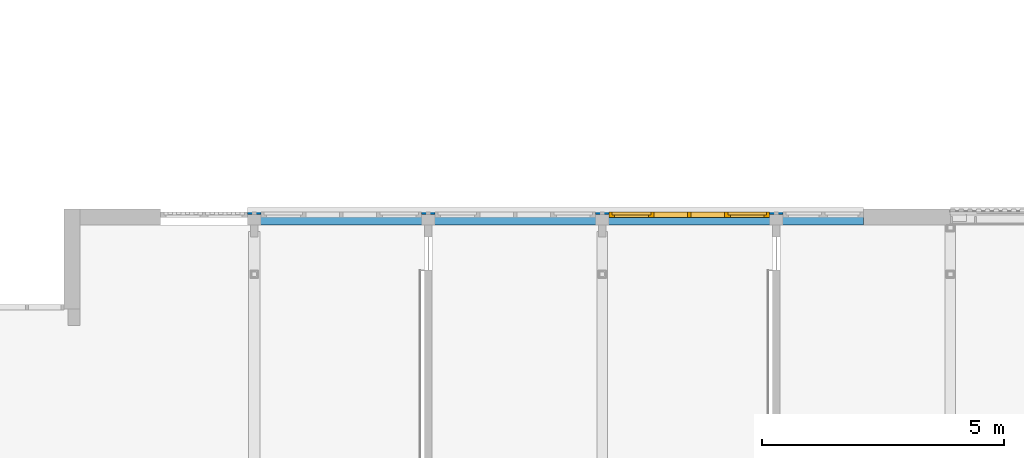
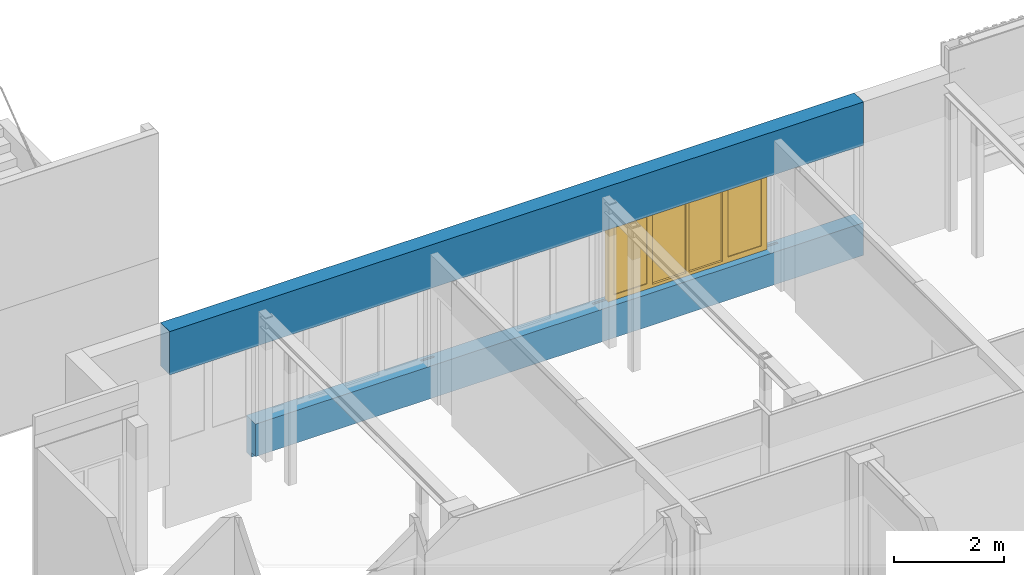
# One storey, part 29 of 99: 1 wall, 1 window, 5 openings.
"""IFC2X3 building model written with IfcOpenShell, lengths in millimetres."""

from ifc_helpers import new_model, entity, si_unit, converted_unit, derived_unit, money_unit, direction, frame, origin_with_axes, place, context, subcontext, project, spatial, open_shell, faceted_brep, surface_model, source, transform, mapped, material, type_object, type_shapes, element, fill, save


model = new_model("IFC2X3")

# Units and contexts
model_context = context("Model", 3, precision=0.01, world=origin_with_axes(), true_north=direction((0.0, 1.0)))
body_context = subcontext(model_context, "Body", "Model", "MODEL_VIEW")
ifc_project = project(units=[si_unit("LENGTHUNIT", "METRE", prefix="MILLI"), si_unit("AREAUNIT", "SQUARE_METRE"), si_unit("VOLUMEUNIT", "CUBIC_METRE"), converted_unit("PLANEANGLEUNIT", "DEGREE", entity("IfcPlaneAngleMeasure", 0.0174532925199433), si_unit("PLANEANGLEUNIT", "RADIAN"), dimensions=[0, 0, 0, 0, 0, 0, 0]), money_unit("EUR"), converted_unit("TIMEUNIT", "Year", entity("IfcTimeMeasure", 31557600.0), si_unit("TIMEUNIT", "SECOND"), dimensions=[0, 0, 1, 0, 0, 0, 0]), si_unit("MASSUNIT", "GRAM", prefix="KILO"), si_unit("THERMODYNAMICTEMPERATUREUNIT", "DEGREE_CELSIUS"), si_unit("LUMINOUSINTENSITYUNIT", "LUMEN"), si_unit("ENERGYUNIT", "JOULE", prefix="MEGA"), derived_unit("THERMALCONDUCTANCEUNIT", [(si_unit("POWERUNIT", "WATT"), 1), (si_unit("LENGTHUNIT", "METRE"), -1), (si_unit("THERMODYNAMICTEMPERATUREUNIT", "KELVIN"), -1)]), derived_unit("SPECIFICHEATCAPACITYUNIT", [(si_unit("ENERGYUNIT", "JOULE"), 1), (si_unit("MASSUNIT", "GRAM", prefix="KILO"), -1), (si_unit("THERMODYNAMICTEMPERATUREUNIT", "KELVIN"), -1)]), derived_unit("MASSDENSITYUNIT", [(si_unit("MASSUNIT", "GRAM", prefix="KILO"), 1), (si_unit("VOLUMEUNIT", "CUBIC_METRE"), -1)])], contexts=[model_context])

# Site, building, storey
site_placement = place(None, origin_with_axes())
site = spatial("IfcSite", under=ifc_project, at=site_placement, Name="Site", CompositionType="ELEMENT")
building_placement = place(site_placement, origin_with_axes())
building = spatial("IfcBuilding", under=site, at=building_placement, Name="Naam gebouw", CompositionType="ELEMENT")
storey_placement = place(building_placement, frame((0.0, 0.0, 7650.0), z_axis=(0.0, 0.0, 1.0), x_axis=(1.0, 0.0, 0.0)))
storey = spatial("IfcBuildingStorey", under=building, at=storey_placement, Name="2e verdieping N", CompositionType="ELEMENT", Elevation=7650.0)

# Wall, openings, window
ifc_material = material(Name="ALG - CONSTRUCTIEF")
wall_type = type_object("IfcWallType", Name="ALG - CONSTRUCTIEF 330", PredefinedType="NOTDEFINED")
wall_placement = place(storey_placement, frame((48601.18090496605, 27505.91242510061, -99.99999999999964), z_axis=(0.0, 0.0, 1.0), x_axis=(-1.0, 0.0, 0.0)))
wall = element("IfcWall", 1, at=wall_placement, inside=storey, type_object=wall_type, material=ifc_material, Name="_Wand-x", context=body_context, shape_type="Brep", body=[
    faceted_brep([(12738.68090496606, -259.9999999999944, 0.0), (12738.68090496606, -146.0000000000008, 0.0), (12738.68090496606, -146.0000000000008, 99.99999999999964), (12738.68090496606, -145.9999999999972, 820.0000000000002), (12738.68090496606, 0.0, 820.0000000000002), (12738.68090496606, -216.0000000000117, 820.0000000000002), (12738.68090496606, -259.9999999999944, 820.0000000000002), (12738.68090496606, -329.9999999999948, 820.0000000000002), (12738.68090496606, -329.9999999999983, 0.0), (0.0, -329.9999999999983, 0.0), (0.0, -145.6834109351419, 0.0), (0.0, -145.6834109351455, 99.99999999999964), (12738.68090496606, 0.0, 99.99999999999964), (0.0, 0.0, 820.0000000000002), (0.0, -329.9999999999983, 820.0000000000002), (12463.68090496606, -259.9999999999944, 820.0000000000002), (12463.68090496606, -216.0000000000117, 820.0000000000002), (1938.680904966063, -216.0000000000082, 820.0000000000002), (1938.680904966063, -259.999999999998, 820.0000000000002), (1663.680904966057, -259.999999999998, 820.0000000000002), (1663.680904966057, -216.0000000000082, 820.0000000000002), (5538.680904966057, -216.0000000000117, 820.0000000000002), (5538.680904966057, -259.999999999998, 820.0000000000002), (5263.680904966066, -259.999999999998, 820.0000000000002), (5263.680904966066, -216.0000000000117, 820.0000000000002), (8863.68090496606, -259.999999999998, 820.0000000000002), (8863.68090496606, -216.0000000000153, 820.0000000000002), (9138.680904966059, -216.0000000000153, 820.0000000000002), (9138.680904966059, -259.999999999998, 820.0000000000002), (0.0, 0.0, 99.99999999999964)], [[[0, 1, 2, 3, 4, 5, 6, 7, 8]], [[1, 0, 8, 9, 10]], [[2, 1, 10, 11]], [[3, 2, 12, 4]], [[5, 4, 13, 14, 7, 6, 15, 16], [17, 18, 19, 20], [21, 22, 23, 24], [25, 26, 27, 28]], [[6, 5, 16, 15]], [[7, 14, 9, 8]], [[13, 29, 11, 10, 9, 14]], [[2, 11, 29, 12]], [[29, 13, 4, 12]], [[18, 17, 20, 19]], [[22, 21, 24, 23]], [[26, 25, 28, 27]]]),
    faceted_brep([(12738.68090496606, -216.0000000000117, 2539.999999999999), (12738.68090496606, -259.9999999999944, 2539.999999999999), (12463.68090496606, -259.9999999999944, 2540.000000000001), (12463.68090496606, -216.0000000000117, 2540.000000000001), (12738.68090496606, 0.0, 2539.999999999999), (14538.68090496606, 0.0, 2539.999999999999), (14538.68090496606, -259.9999999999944, 2539.999999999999), (14538.68090496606, -329.9999999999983, 2539.999999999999), (0.0, -329.9999999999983, 2540.000000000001), (0.0, 0.0, 2540.000000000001), (1938.680904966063, -259.999999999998, 2540.000000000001), (1938.680904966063, -216.0000000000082, 2540.000000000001), (1663.680904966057, -216.0000000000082, 2540.000000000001), (1663.680904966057, -259.999999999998, 2540.000000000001), (5538.680904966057, -216.0000000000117, 2540.000000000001), (5263.680904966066, -216.0000000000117, 2540.000000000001), (5263.680904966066, -259.999999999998, 2540.000000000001), (5538.680904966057, -259.999999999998, 2540.000000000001), (8863.68090496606, -259.999999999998, 2540.000000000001), (9138.680904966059, -259.999999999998, 2540.000000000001), (9138.680904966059, -216.0000000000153, 2540.000000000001), (8863.68090496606, -216.0000000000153, 2540.000000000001), (0.0, 0.0, 3500.0), (14538.68090496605, 0.0, 3500.0), (14538.68090496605, -329.9999999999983, 3500.0), (0.0, -329.9999999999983, 3500.0)], [[[0, 1, 2, 3]], [[4, 5, 6, 7, 8, 9], [10, 11, 12, 13], [14, 15, 16, 17], [18, 19, 20, 21], [0, 3, 2, 1]], [[5, 4, 9, 22, 23]], [[6, 5, 23, 24, 7]], [[24, 25, 8, 7]], [[25, 22, 9, 8]], [[11, 10, 13, 12]], [[14, 17, 16, 15]], [[18, 21, 20, 19]], [[23, 22, 25, 24]]]),
])
opening_1_placement = place(wall_placement, frame((3601.180904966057, 0.0, 820.0000000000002), z_axis=(0.0, 0.0, 1.0), x_axis=(1.0, 0.0, 0.0)))
opening_1 = element("IfcOpeningElement", 2, at=opening_1_placement, cuts=wall, Name="_Merk-052", context=body_context, shape_type="Brep", body=[
    faceted_brep([(1937.5, -259.999999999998, 0.0), (1937.5, -259.999999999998, 1720.000000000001), (1937.5, -331.0000000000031, 1720.000000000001), (1937.5, -331.0000000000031, 0.0), (1937.5, 1.000000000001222, 0.0), (1937.5, 1.000000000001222, 1720.000000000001), (-1937.5, -259.999999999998, 1720.000000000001), (-1937.5, -331.0000000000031, 1720.000000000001), (-1937.5, 1.000000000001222, 1720.000000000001), (-1937.5, -331.0000000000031, 0.0), (-1937.5, -259.999999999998, 0.0), (-1937.5, 1.000000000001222, 0.0)], [[[0, 1, 2, 3]], [[1, 0, 4, 5]], [[6, 7, 2, 1, 5, 8]], [[7, 9, 3, 2]], [[0, 3, 9, 10, 11, 4]], [[5, 4, 11, 8]], [[6, 10, 9, 7]], [[10, 6, 8, 11]]]),
])
opening_2_placement = place(wall_placement, frame((831.8404524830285, 0.0, 820.0000000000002), z_axis=(0.0, 0.0, 1.0), x_axis=(1.0, 0.0, 0.0)))
element("IfcOpeningElement", 3, at=opening_2_placement, cuts=wall, Name="_Merk-051", context=body_context, shape_type="Brep", body=[
    faceted_brep([(831.8404524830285, -259.999999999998, 0.0), (831.8404524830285, -259.999999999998, 1720.000000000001), (831.8404524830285, -331.0000000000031, 1720.000000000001), (831.8404524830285, -331.0000000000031, 0.0), (831.8404524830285, 1.000000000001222, 0.0), (831.8404524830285, 1.000000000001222, 1720.000000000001), (-831.8404524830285, -259.999999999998, 1720.000000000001), (-831.8404524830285, -331.0000000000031, 1720.000000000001), (-831.8404524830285, 1.000000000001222, 1720.000000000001), (-831.8404524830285, -331.0000000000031, 0.0), (-831.8404524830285, -259.999999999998, 0.0), (-831.8404524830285, 1.000000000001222, 0.0)], [[[0, 1, 2, 3]], [[1, 0, 4, 5]], [[6, 7, 2, 1, 5, 8]], [[7, 9, 3, 2]], [[0, 3, 9, 10, 11, 4]], [[5, 4, 11, 8]], [[6, 10, 9, 7]], [[10, 6, 8, 11]]]),
])
opening_3_placement = place(wall_placement, frame((7201.180904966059, 0.0, 820.0000000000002), z_axis=(0.0, 0.0, 1.0), x_axis=(1.0, 0.0, 0.0)))
element("IfcOpeningElement", 4, at=opening_3_placement, cuts=wall, Name="_Merk-052", context=body_context, shape_type="Brep", body=[
    faceted_brep([(1937.5, -259.999999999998, 0.0), (1937.5, -259.999999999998, 1720.000000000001), (1937.5, -331.0000000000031, 1720.000000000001), (1937.5, -331.0000000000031, 0.0), (1937.5, 1.000000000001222, 0.0), (1937.5, 1.000000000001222, 1720.000000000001), (-1937.5, -259.999999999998, 1720.000000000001), (-1937.5, -331.0000000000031, 1720.000000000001), (-1937.5, 1.000000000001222, 1720.000000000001), (-1937.5, -331.0000000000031, 0.0), (-1937.5, -259.999999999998, 0.0), (-1937.5, 1.000000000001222, 0.0)], [[[0, 1, 2, 3]], [[1, 0, 4, 5]], [[6, 7, 2, 1, 5, 8]], [[7, 9, 3, 2]], [[0, 3, 9, 10, 11, 4]], [[5, 4, 11, 8]], [[6, 10, 9, 7]], [[10, 6, 8, 11]]]),
])
opening_4_placement = place(wall_placement, frame((13638.68090496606, 0.0, -960.0000000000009), z_axis=(0.0, 0.0, 1.0), x_axis=(1.0, 0.0, 0.0)))
element("IfcOpeningElement", 5, at=opening_4_placement, cuts=wall, Name="_Merk-051", context=body_context, shape_type="Brep", body=[
    faceted_brep([(899.9999999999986, -259.9999999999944, -1060.0), (899.9999999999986, -259.9999999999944, 3500.0), (899.9999999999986, -330.9999999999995, 3500.0), (899.9999999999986, -330.9999999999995, -1060.0), (899.9999999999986, 1.000000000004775, -1060.0), (899.9999999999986, 1.000000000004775, 3500.0), (-899.9999999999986, -259.9999999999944, 3500.0), (-899.9999999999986, -330.9999999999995, 3500.0), (-899.9999999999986, 1.000000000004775, 3500.0), (-899.9999999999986, -330.9999999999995, -1060.0), (-899.9999999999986, -259.9999999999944, -1060.0), (-899.9999999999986, 1.000000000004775, -1060.0)], [[[0, 1, 2, 3]], [[1, 0, 4, 5]], [[6, 7, 2, 1, 5, 8]], [[7, 9, 3, 2]], [[0, 3, 9, 10, 11, 4]], [[5, 4, 11, 8]], [[6, 10, 9, 7]], [[10, 6, 8, 11]]]),
])
opening_5_placement = place(wall_placement, frame((10801.18090496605, 0.0, 820.0000000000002), z_axis=(0.0, 0.0, 1.0), x_axis=(1.0, 0.0, 0.0)))
element("IfcOpeningElement", 6, at=opening_5_placement, cuts=wall, Name="_Merk-052", context=body_context, shape_type="Brep", body=[
    faceted_brep([(1937.5, -259.9999999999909, 0.0), (1937.5, -259.9999999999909, 1720.000000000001), (1937.5, -330.999999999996, 1720.000000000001), (1937.5, -330.999999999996, 0.0), (1937.5, 1.000000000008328, 0.0), (1937.5, 1.000000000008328, 1720.000000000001), (-1937.5, -259.9999999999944, 1720.000000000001), (-1937.5, -330.9999999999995, 1720.000000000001), (-1937.5, 1.000000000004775, 1720.000000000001), (-1937.5, -330.9999999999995, 0.0), (-1937.5, -259.9999999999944, 0.0), (-1937.5, 1.000000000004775, 0.0)], [[[0, 1, 2, 3]], [[1, 0, 4, 5]], [[6, 7, 2, 1, 5, 8]], [[7, 9, 3, 2]], [[0, 3, 9, 10, 11, 4]], [[5, 4, 11, 8]], [[6, 10, 9, 7]], [[10, 6, 8, 11]]]),
])
window_style = type_object("IfcWindowStyle", Name="Rnx horizontaal 26", ConstructionType="NOTDEFINED", OperationType="USERDEFINED", ParameterTakesPrecedence=False, Sizeable=False)
shared_shape = source(origin_with_axes(), body_context, "Body", "SurfaceModel", [
    faceted_brep([(1612.5, 0.0, 1653.0), (1612.5, -54.0000000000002, 1653.0), (1595.5, -54.00000000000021, 1653.0), (1595.5, -114.0000000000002, 1653.0), (1662.5, -114.0000000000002, 1653.0), (1662.5, 0.0, 1653.0), (1612.5, 0.0, 66.99999999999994), (1612.5, -54.00000000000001, 66.99999999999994), (1595.5, -54.00000000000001, 66.99999999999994), (1595.5, -114.0, 66.99999999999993), (1662.5, -114.0, 66.99999999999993), (1662.5, 0.0, 66.99999999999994)], [[[0, 1, 2, 3, 4, 5]], [[1, 0, 6, 7]], [[8, 2, 1, 7]], [[2, 8, 9, 3]], [[4, 3, 9, 10]], [[5, 4, 10, 11]], [[6, 0, 5, 11]], [[7, 6, 11, 10, 9, 8]]]),
    faceted_brep([(-1595.5, -54.00000000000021, 1653.0), (-1612.5, -54.0000000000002, 1653.0), (-1612.5, 0.0, 1653.0), (-1662.5, 0.0, 1653.0), (-1662.5, -114.0000000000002, 1653.0), (-1595.5, -114.0000000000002, 1653.0), (-1595.5, -54.00000000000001, 66.99999999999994), (-1612.5, -54.00000000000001, 66.99999999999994), (-1612.5, 0.0, 66.99999999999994), (-1662.5, 0.0, 66.99999999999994), (-1662.5, -114.0, 66.99999999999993), (-1595.5, -114.0, 66.99999999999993)], [[[0, 1, 2, 3, 4, 5]], [[1, 0, 6, 7]], [[8, 2, 1, 7]], [[2, 8, 9, 3]], [[9, 10, 4, 3]], [[10, 11, 5, 4]], [[6, 0, 5, 11]], [[7, 6, 11, 10, 9, 8]]]),
    faceted_brep([(1612.5, 0.0, 1653.0), (1612.5, 0.0, 1670.0), (781.0000000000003, 0.0, 1670.0), (781.0000000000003, 0.0, 1653.0), (731.0000000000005, 0.0, 1653.0), (33.50000000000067, 0.0, 1653.0), (-33.49999999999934, 0.0, 1653.0), (-730.9999999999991, 0.0, 1653.0), (-780.999999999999, 0.0, 1653.0), (-780.999999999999, 0.0, 1670.0), (-1612.5, 0.0, 1670.0), (-1612.5, 0.0, 1653.0), (-1662.5, 0.0, 1653.0), (-1662.5, 0.0, 1720.0), (1662.5, 0.0, 1720.0), (1662.5, 0.0, 1653.0), (1612.5, -54.0000000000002, 1653.0), (1612.5, -54.0000000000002, 1670.0), (781.0000000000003, -54.0000000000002, 1670.0), (781.0000000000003, -54.0000000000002, 1653.0), (798.0000000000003, -54.00000000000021, 1653.0), (798.0000000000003, -114.0000000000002, 1653.0), (731.0000000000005, -114.0000000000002, 1653.0), (33.50000000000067, -114.0000000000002, 1653.0), (-33.49999999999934, -114.0000000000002, 1653.0), (-730.9999999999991, -114.0000000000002, 1653.0), (-780.999999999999, -54.0000000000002, 1653.0), (-797.9999999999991, -114.0000000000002, 1653.0), (-797.9999999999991, -54.00000000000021, 1653.0), (-780.999999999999, -54.0000000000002, 1670.0), (-1612.5, -54.0000000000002, 1670.0), (-1612.5, -54.0000000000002, 1653.0), (-1595.5, -54.00000000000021, 1653.0), (-1595.5, -114.0000000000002, 1653.0), (-1662.5, -114.0000000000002, 1653.0), (-1662.5, -114.0000000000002, 1720.0), (1662.5, -114.0000000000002, 1720.0), (1662.5, -114.0000000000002, 1653.0), (1595.5, -114.0000000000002, 1653.0), (1595.5, -54.00000000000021, 1653.0)], [[[0, 1, 2, 3, 4, 5, 6, 7, 8, 9, 10, 11, 12, 13, 14, 15]], [[1, 0, 16, 17]], [[2, 1, 17, 18]], [[3, 2, 18, 19]], [[19, 20, 21, 22, 4, 3]], [[4, 22, 23, 5]], [[5, 23, 24, 6]], [[6, 24, 25, 7]], [[26, 8, 7, 25, 27, 28]], [[9, 8, 26, 29]], [[10, 9, 29, 30]], [[11, 10, 30, 31]], [[31, 32, 33, 34, 12, 11]], [[12, 34, 35, 13]], [[13, 35, 36, 14]], [[14, 36, 37, 15]], [[16, 0, 15, 37, 38, 39]], [[20, 19, 18, 17, 16, 39]], [[20, 39, 38, 21]], [[34, 33, 27, 25, 24, 23, 22, 21, 38, 37, 36, 35]], [[32, 28, 27, 33]], [[32, 31, 30, 29, 26, 28]]]),
    faceted_brep([(798.0000000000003, -54.00000000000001, 66.99999999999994), (781.0000000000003, -54.00000000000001, 66.99999999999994), (781.0000000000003, 0.0, 66.99999999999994), (731.0000000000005, 0.0, 66.99999999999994), (731.0000000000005, -114.0, 66.99999999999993), (798.0000000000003, -114.0, 66.99999999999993), (1595.5, -54.00000000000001, 66.99999999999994), (1612.5, -54.00000000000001, 66.99999999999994), (1612.5, -54.00000000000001, 50.00000000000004), (781.0000000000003, -54.00000000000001, 50.00000000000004), (781.0000000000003, 0.0, 50.00000000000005), (1612.5, 0.0, 50.00000000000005), (1612.5, 0.0, 66.99999999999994), (1662.5, 0.0, 66.99999999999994), (1662.5, 0.0, 0.0), (-1662.5, 0.0, 0.0), (-1662.5, 0.0, 66.99999999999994), (-1612.5, 0.0, 66.99999999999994), (-1612.5, 0.0, 50.00000000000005), (-780.999999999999, 0.0, 50.00000000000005), (-780.999999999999, 0.0, 66.99999999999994), (-730.9999999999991, 0.0, 66.99999999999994), (-33.49999999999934, 0.0, 66.99999999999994), (33.50000000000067, 0.0, 66.99999999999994), (33.50000000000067, -114.0, 66.99999999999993), (-730.9999999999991, -114.0, 66.99999999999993), (-797.9999999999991, -114.0, 66.99999999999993), (-1595.5, -114.0, 66.99999999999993), (-1662.5, -114.0, 66.99999999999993), (-1662.5, -114.0, 0.0), (1662.5, -114.0, 0.0), (1662.5, -114.0, 66.99999999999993), (1595.5, -114.0, 66.99999999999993), (-33.49999999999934, -114.0, 66.99999999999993), (-1595.5, -54.00000000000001, 66.99999999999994), (-1612.5, -54.00000000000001, 66.99999999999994), (-1612.5, -54.00000000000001, 50.00000000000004), (-780.999999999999, -54.00000000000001, 50.00000000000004), (-780.999999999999, -54.00000000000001, 66.99999999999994), (-797.9999999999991, -54.00000000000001, 66.99999999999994)], [[[0, 1, 2, 3, 4, 5]], [[1, 0, 6, 7, 8, 9]], [[10, 2, 1, 9]], [[11, 12, 13, 14, 15, 16, 17, 18, 19, 20, 21, 22, 23, 3, 2, 10]], [[23, 24, 4, 3]], [[25, 26, 27, 28, 29, 30, 31, 32, 5, 4, 24, 33]], [[6, 0, 5, 32]], [[7, 6, 32, 31, 13, 12]], [[7, 12, 11, 8]], [[11, 10, 9, 8]], [[13, 31, 30, 14]], [[14, 30, 29, 15]], [[15, 29, 28, 16]], [[34, 35, 17, 16, 28, 27]], [[18, 17, 35, 36]], [[19, 18, 36, 37]], [[38, 20, 19, 37]], [[38, 39, 26, 25, 21, 20]], [[21, 25, 33, 22]], [[22, 33, 24, 23]], [[39, 34, 27, 26]], [[35, 34, 39, 38, 37, 36]]]),
    faceted_brep([(798.0000000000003, -54.00000000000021, 1653.0), (781.0000000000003, -54.0000000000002, 1653.0), (781.0000000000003, 0.0, 1653.0), (731.0000000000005, 0.0, 1653.0), (731.0000000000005, -114.0000000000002, 1653.0), (798.0000000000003, -114.0000000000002, 1653.0), (798.0000000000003, -54.00000000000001, 66.99999999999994), (781.0000000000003, -54.00000000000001, 66.99999999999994), (781.0000000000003, 0.0, 66.99999999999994), (731.0000000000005, 0.0, 66.99999999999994), (731.0000000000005, -114.0, 66.99999999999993), (798.0000000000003, -114.0, 66.99999999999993)], [[[0, 1, 2, 3, 4, 5]], [[1, 0, 6, 7]], [[8, 2, 1, 7]], [[2, 8, 9, 3]], [[9, 10, 4, 3]], [[4, 10, 11, 5]], [[6, 0, 5, 11]], [[7, 6, 11, 10, 9, 8]]]),
    faceted_brep([(-33.49999999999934, 0.0, 66.99999999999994), (-33.49999999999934, -114.0, 66.99999999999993), (-33.49999999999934, -114.0000000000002, 1653.0), (-33.49999999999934, 0.0, 1653.0), (33.50000000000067, 0.0, 66.99999999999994), (33.50000000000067, -114.0, 66.99999999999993), (33.50000000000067, -114.0000000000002, 1653.0), (33.50000000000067, 0.0, 1653.0)], [[[0, 1, 2, 3]], [[4, 5, 1, 0]], [[2, 1, 5, 6]], [[3, 2, 6, 7]], [[4, 0, 3, 7]], [[7, 6, 5, 4]]]),
    faceted_brep([(-780.999999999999, 0.0, 1653.0), (-780.999999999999, -54.0000000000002, 1653.0), (-797.9999999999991, -54.00000000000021, 1653.0), (-797.9999999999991, -114.0000000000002, 1653.0), (-730.9999999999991, -114.0000000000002, 1653.0), (-730.9999999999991, 0.0, 1653.0), (-780.999999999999, 0.0, 66.99999999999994), (-780.999999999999, -54.00000000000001, 66.99999999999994), (-797.9999999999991, -54.00000000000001, 66.99999999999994), (-797.9999999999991, -114.0, 66.99999999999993), (-730.9999999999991, -114.0, 66.99999999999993), (-730.9999999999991, 0.0, 66.99999999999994)], [[[0, 1, 2, 3, 4, 5]], [[1, 0, 6, 7]], [[8, 2, 1, 7]], [[2, 8, 9, 3]], [[3, 9, 10, 4]], [[5, 4, 10, 11]], [[6, 0, 5, 11]], [[7, 6, 11, 10, 9, 8]]]),
    faceted_brep([(1545.5, -54.00000000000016, 1603.0), (1612.5, -54.00000000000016, 1603.0), (1612.5, 0.0, 1603.0), (1545.5, 0.0, 1603.0), (1545.5, -53.99999999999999, 117.0), (1612.5, -53.99999999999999, 117.0), (1612.5, 0.0, 117.0), (1545.5, 0.0, 117.0)], [[[0, 1, 2, 3]], [[0, 4, 5, 1]], [[1, 5, 6, 2]], [[3, 2, 6, 7]], [[4, 0, 3, 7]], [[5, 4, 7, 6]]]),
    faceted_brep([(848.0000000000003, -54.00000000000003, 117.0), (781.0000000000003, -54.00000000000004, 117.0), (781.0000000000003, 0.0, 117.0), (848.0000000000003, 0.0, 117.0), (848.0000000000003, -54.00000000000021, 1603.0), (781.0000000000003, -54.00000000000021, 1603.0), (781.0000000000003, 0.0, 1603.0), (848.0000000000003, 0.0, 1603.0)], [[[0, 1, 2, 3]], [[0, 4, 5, 1]], [[1, 5, 6, 2]], [[3, 2, 6, 7]], [[4, 0, 3, 7]], [[5, 4, 7, 6]]]),
    faceted_brep([(781.0000000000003, -54.00000000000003, 50.00000000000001), (781.0000000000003, -54.00000000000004, 117.0), (781.0000000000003, 0.0, 117.0), (781.0000000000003, 0.0, 50.00000000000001), (1612.5, -53.99999999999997, 50.00000000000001), (1612.5, -53.99999999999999, 117.0), (1545.5, -53.99999999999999, 117.0), (848.0000000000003, -54.00000000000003, 117.0), (848.0000000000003, 0.0, 117.0), (1545.5, 0.0, 117.0), (1612.5, 0.0, 117.0), (1612.5, 0.0, 50.00000000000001)], [[[0, 1, 2, 3]], [[0, 4, 5, 6, 7, 1]], [[1, 7, 8, 2]], [[3, 2, 8, 9, 10, 11]], [[4, 0, 3, 11]], [[5, 4, 11, 10]], [[6, 5, 10, 9]], [[7, 6, 9, 8]]]),
    faceted_brep([(1612.5, -54.00000000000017, 1670.0), (1612.5, -54.00000000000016, 1603.0), (1612.5, 0.0, 1603.0), (1612.5, 0.0, 1670.0), (781.0000000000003, -54.00000000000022, 1670.0), (781.0000000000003, -54.00000000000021, 1603.0), (848.0000000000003, -54.00000000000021, 1603.0), (1545.5, -54.00000000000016, 1603.0), (1545.5, 0.0, 1603.0), (848.0000000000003, 0.0, 1603.0), (781.0000000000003, 0.0, 1603.0), (781.0000000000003, 0.0, 1670.0)], [[[0, 1, 2, 3]], [[0, 4, 5, 6, 7, 1]], [[1, 7, 8, 2]], [[3, 2, 8, 9, 10, 11]], [[4, 0, 3, 11]], [[5, 4, 11, 10]], [[6, 5, 10, 9]], [[7, 6, 9, 8]]]),
    surface_model("IfcShellBasedSurfaceModel", [(1545.5, -37.00000000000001, 117.0), (1545.5, -37.00000000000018, 1603.0), (848.0000000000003, -37.00000000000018, 1603.0), (848.0000000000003, -37.00000000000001, 117.0)], [open_shell([[[0, 1, 2, 3]]])]),
    surface_model("IfcShellBasedSurfaceModel", [(1545.5, -17.0, 117.0), (848.0000000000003, -17.0, 117.0), (848.0000000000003, -17.00000000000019, 1603.0), (1545.5, -17.00000000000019, 1603.0)], [open_shell([[[0, 1, 2, 3]]])]),
    surface_model("IfcShellBasedSurfaceModel", [(731.0000000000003, -64.0, 66.99999999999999), (731.0000000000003, -64.0000000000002, 1653.0), (33.50000000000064, -64.0000000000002, 1653.0), (33.50000000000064, -64.0, 66.99999999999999)], [open_shell([[[0, 1, 2, 3]]])]),
    surface_model("IfcShellBasedSurfaceModel", [(731.0000000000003, -44.0, 66.99999999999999), (33.50000000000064, -44.0, 66.99999999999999), (33.50000000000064, -44.00000000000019, 1653.0), (731.0000000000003, -44.00000000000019, 1653.0)], [open_shell([[[0, 1, 2, 3]]])]),
    surface_model("IfcShellBasedSurfaceModel", [(-33.49999999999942, -64.0, 66.99999999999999), (-33.49999999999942, -64.0000000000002, 1653.0), (-730.9999999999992, -64.0000000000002, 1653.0), (-730.9999999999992, -64.0, 66.99999999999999)], [open_shell([[[0, 1, 2, 3]]])]),
    surface_model("IfcShellBasedSurfaceModel", [(-33.49999999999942, -44.0, 66.99999999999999), (-730.9999999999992, -44.0, 66.99999999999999), (-730.9999999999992, -44.00000000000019, 1653.0), (-33.49999999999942, -44.00000000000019, 1653.0)], [open_shell([[[0, 1, 2, 3]]])]),
    faceted_brep([(-847.9999999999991, -54.00000000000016, 1603.0), (-780.999999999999, -54.00000000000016, 1603.0), (-780.999999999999, 0.0, 1603.0), (-847.9999999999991, 0.0, 1603.0), (-847.9999999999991, -53.99999999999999, 117.0), (-780.999999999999, -53.99999999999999, 117.0), (-780.999999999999, 0.0, 117.0), (-847.9999999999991, 0.0, 117.0)], [[[0, 1, 2, 3]], [[0, 4, 5, 1]], [[1, 5, 6, 2]], [[3, 2, 6, 7]], [[4, 0, 3, 7]], [[5, 4, 7, 6]]]),
    faceted_brep([(-1545.5, -54.00000000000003, 117.0), (-1612.5, -54.00000000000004, 117.0), (-1612.5, 0.0, 117.0), (-1545.5, 0.0, 117.0), (-1545.5, -54.00000000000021, 1603.0), (-1612.5, -54.00000000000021, 1603.0), (-1612.5, 0.0, 1603.0), (-1545.5, 0.0, 1603.0)], [[[0, 1, 2, 3]], [[0, 4, 5, 1]], [[1, 5, 6, 2]], [[3, 2, 6, 7]], [[4, 0, 3, 7]], [[5, 4, 7, 6]]]),
    faceted_brep([(-1612.5, -54.00000000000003, 50.00000000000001), (-1612.5, -54.00000000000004, 117.0), (-1612.5, 0.0, 117.0), (-1612.5, 0.0, 50.00000000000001), (-780.999999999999, -53.99999999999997, 50.00000000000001), (-780.999999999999, -53.99999999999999, 117.0), (-847.9999999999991, -53.99999999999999, 117.0), (-1545.5, -54.00000000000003, 117.0), (-1545.5, 0.0, 117.0), (-847.9999999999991, 0.0, 117.0), (-780.999999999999, 0.0, 117.0), (-780.999999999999, 0.0, 50.00000000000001)], [[[0, 1, 2, 3]], [[0, 4, 5, 6, 7, 1]], [[1, 7, 8, 2]], [[3, 2, 8, 9, 10, 11]], [[4, 0, 3, 11]], [[5, 4, 11, 10]], [[6, 5, 10, 9]], [[7, 6, 9, 8]]]),
    faceted_brep([(-780.999999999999, -54.00000000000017, 1670.0), (-780.999999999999, -54.00000000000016, 1603.0), (-780.999999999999, 0.0, 1603.0), (-780.999999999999, 0.0, 1670.0), (-1612.5, -54.00000000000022, 1670.0), (-1612.5, -54.00000000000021, 1603.0), (-1545.5, -54.00000000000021, 1603.0), (-847.9999999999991, -54.00000000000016, 1603.0), (-847.9999999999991, 0.0, 1603.0), (-1545.5, 0.0, 1603.0), (-1612.5, 0.0, 1603.0), (-1612.5, 0.0, 1670.0)], [[[0, 1, 2, 3]], [[0, 4, 5, 6, 7, 1]], [[1, 7, 8, 2]], [[3, 2, 8, 9, 10, 11]], [[4, 0, 3, 11]], [[5, 4, 11, 10]], [[6, 5, 10, 9]], [[7, 6, 9, 8]]]),
    surface_model("IfcShellBasedSurfaceModel", [(-847.9999999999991, -37.00000000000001, 117.0), (-847.9999999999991, -37.00000000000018, 1603.0), (-1545.5, -37.00000000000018, 1603.0), (-1545.5, -37.00000000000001, 117.0)], [open_shell([[[0, 1, 2, 3]]])]),
    surface_model("IfcShellBasedSurfaceModel", [(-847.9999999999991, -17.0, 117.0), (-1545.5, -17.0, 117.0), (-1545.5, -17.00000000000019, 1603.0), (-847.9999999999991, -17.00000000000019, 1603.0)], [open_shell([[[0, 1, 2, 3]]])]),
])
type_shapes(window_style, [shared_shape])
window_placement = place(opening_1_placement, frame((-1662.500000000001, 0.0, 0.0), z_axis=(0.0, 0.0, 1.0), x_axis=(1.0, 0.0, 0.0)))
window = element("IfcWindow", 7, at=window_placement, inside=storey, type_object=window_style, Name="_Merk-052", ObjectType="WINDOW", OverallHeight=1720.0, OverallWidth=3325.0, context=body_context, shape_type="MappedRepresentation", body=[
    mapped(shared_shape, transform((1662.500000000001, -145.9999999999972, 0.0))),
])
fill(opening_1, window)

save(model, "model.ifc")
